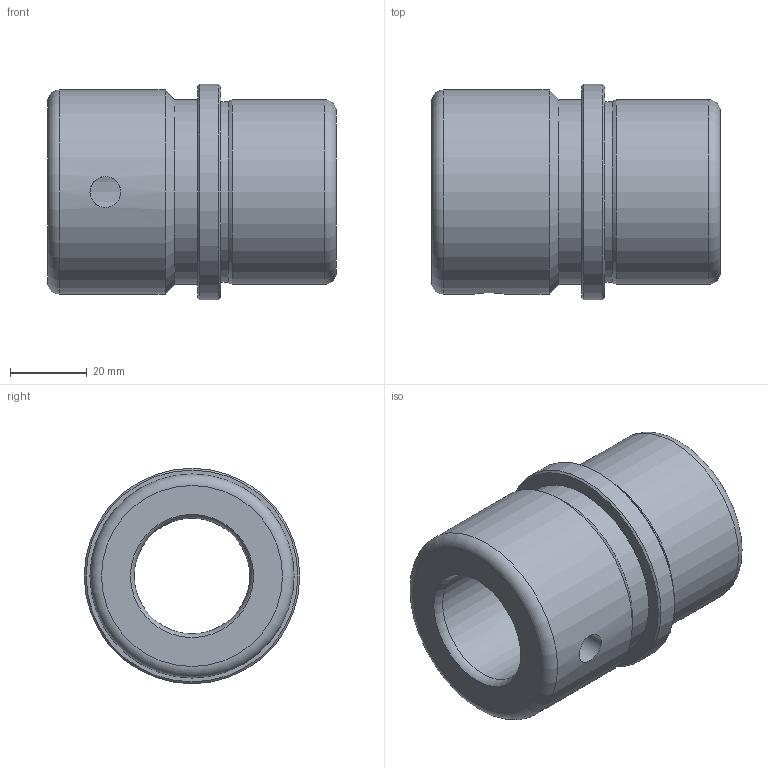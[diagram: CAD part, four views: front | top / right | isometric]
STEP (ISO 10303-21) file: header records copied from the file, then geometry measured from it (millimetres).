
FILE_DESCRIPTION(/* description */ ('Impex Ready, www.impex-ready.pl'),/* implementation_level */ '2;1');
FILE_NAME(/* name */ 'C:\Users\VIKKY\Nextcloud\SM\projekt 10 - części na stronę internetową\Pliki_3D_new\273 Tuleje BEBA\273_BEBA_STEP\BEBA30-4.ipt.step',/* time_stamp */ '2022-01-19T05:44:30+01:00',/* author */ ('SM'),/* organization */ (''),/* preprocessor_version */ 'ST-DEVELOPER v18.1',/* originating_system */ 'Autodesk Inventor 2021',/* authorisation */ '');
FILE_SCHEMA (('AUTOMOTIVE_DESIGN { 1 0 10303 214 3 1 1 }'));
Length unit declared in the file: millimetre
Products named in the file (1): BEBA30-4
Bounding box: 75 x 56 x 56 mm (x, y, z)
Volume: 97675.6 mm3; surface area: 37704.9 mm2
Topology: 2 solids, 2 shells, 22 faces, 54 edges, 32 vertices
Faces by surface type: cylinder 10, torus 4, plane 4, cone 4
Full cylindrical faces by diameter (mm): 8 x2, 30 x1, 32 x2, 47 x1, 48 x2, 53 x1, 56 x1
Entity records: 882 total; most frequent: CARTESIAN_POINT 249, DIRECTION 116, ORIENTED_EDGE 108, EDGE_CURVE 54, AXIS2_PLACEMENT_3D 49, VERTEX_POINT 32, CIRCLE 26, EDGE_LOOP 26
